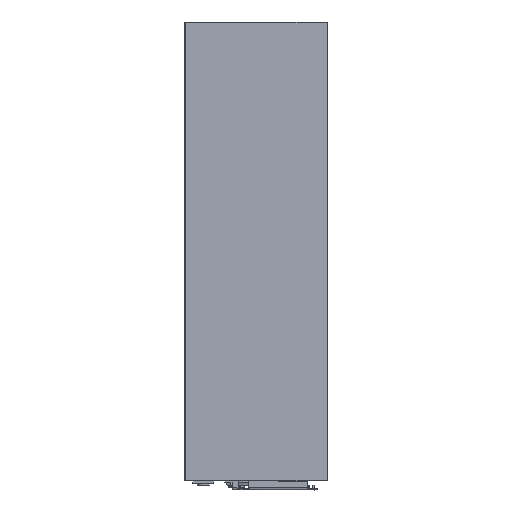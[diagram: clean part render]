
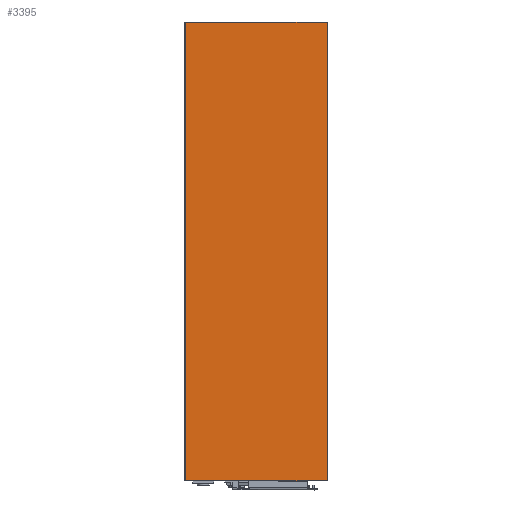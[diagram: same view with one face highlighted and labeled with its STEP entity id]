
A CAD part, left-side view. The second image highlights one B-rep face of the part: STEP entity #3395.
In plain terms, the highlighted planar face has unit normal (-1, 0, 0).
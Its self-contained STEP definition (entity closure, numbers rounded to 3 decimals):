
#3 = EDGE_CURVE ( 'NONE', #1244, #2284, #683, .T. ) ;
#44 = VECTOR ( 'NONE', #3022, 1000. ) ;
#140 = DIRECTION ( 'NONE',  ( 0., -1., 0. ) ) ;
#418 = DIRECTION ( 'NONE',  ( 0., 1., 0. ) ) ;
#440 = CARTESIAN_POINT ( 'NONE',  ( 2.5, -29., 0. ) ) ;
#512 = FACE_OUTER_BOUND ( 'NONE', #1927, .T. ) ;
#679 = VECTOR ( 'NONE', #1949, 1000. ) ;
#683 = LINE ( 'NONE', #1060, #679 ) ;
#928 = ORIENTED_EDGE ( 'NONE', *, *, #3, .T. ) ;
#947 = DIRECTION ( 'NONE',  ( 0., -1., 0. ) ) ;
#960 = LINE ( 'NONE', #1813, #2255 ) ;
#974 = CARTESIAN_POINT ( 'NONE',  ( 2.5, 91.5, 0. ) ) ;
#1060 = CARTESIAN_POINT ( 'NONE',  ( 2.5, 91.5, 0. ) ) ;
#1244 = VERTEX_POINT ( 'NONE', #974 ) ;
#1365 = LINE ( 'NONE', #2153, #44 ) ;
#1446 = EDGE_CURVE ( 'NONE', #1665, #1244, #2207, .T. ) ;
#1504 = CARTESIAN_POINT ( 'NONE',  ( 2.5, -29., 0. ) ) ;
#1665 = VERTEX_POINT ( 'NONE', #2592 ) ;
#1760 = ORIENTED_EDGE ( 'NONE', *, *, #3278, .T. ) ;
#1813 = CARTESIAN_POINT ( 'NONE',  ( 2.5, 91.9, -390. ) ) ;
#1927 = EDGE_LOOP ( 'NONE', ( #2036, #3052, #928, #1760 ) ) ;
#1949 = DIRECTION ( 'NONE',  ( 0., 0., -1. ) ) ;
#2036 = ORIENTED_EDGE ( 'NONE', *, *, #2406, .F. ) ;
#2153 = CARTESIAN_POINT ( 'NONE',  ( 2.5, -29., 0. ) ) ;
#2207 = LINE ( 'NONE', #440, #3177 ) ;
#2255 = VECTOR ( 'NONE', #140, 1000. ) ;
#2284 = VERTEX_POINT ( 'NONE', #2421 ) ;
#2406 = EDGE_CURVE ( 'NONE', #1665, #3144, #1365, .T. ) ;
#2421 = CARTESIAN_POINT ( 'NONE',  ( 2.5, 91.5, -390. ) ) ;
#2592 = CARTESIAN_POINT ( 'NONE',  ( 2.5, -29., 0. ) ) ;
#2862 = PLANE ( 'NONE',  #3032 ) ;
#3022 = DIRECTION ( 'NONE',  ( 0., 0., -1. ) ) ;
#3032 = AXIS2_PLACEMENT_3D ( 'NONE', #1504, #3379, #947 ) ;
#3052 = ORIENTED_EDGE ( 'NONE', *, *, #1446, .T. ) ;
#3144 = VERTEX_POINT ( 'NONE', #3189 ) ;
#3177 = VECTOR ( 'NONE', #418, 1000. ) ;
#3189 = CARTESIAN_POINT ( 'NONE',  ( 2.5, -29., -390. ) ) ;
#3278 = EDGE_CURVE ( 'NONE', #2284, #3144, #960, .T. ) ;
#3379 = DIRECTION ( 'NONE',  ( 1., 0., 0. ) ) ;
#3395 = ADVANCED_FACE ( 'NONE', ( #512 ), #2862, .F. ) ;
